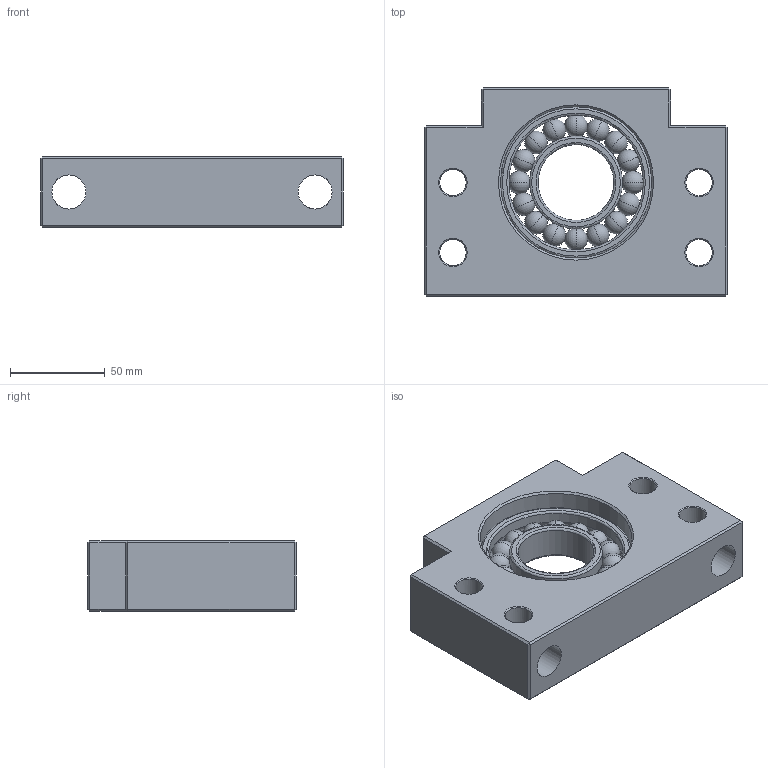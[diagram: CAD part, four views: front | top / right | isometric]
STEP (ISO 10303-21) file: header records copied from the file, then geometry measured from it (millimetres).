
FILE_DESCRIPTION(('STEP AP214'), '1');
FILE_NAME('BF40', '', ('UNSPECIFIED'), ('UNSPECIFIED'), 'ASCON STEP Converter 1.3', 'ASCON Math Kernel', '');
FILE_SCHEMA(('AUTOMOTIVE_DESIGN { 1 0 10303 214 3 1 1}'));
Length unit declared in the file: millimetre
Bounding box: 160 x 110 x 37 mm (x, y, z)
Volume: 395769 mm3; surface area: 85713.4 mm2
Topology: 19 solids, 19 shells, 123 faces, 318 edges, 199 vertices
Faces by surface type: plane 50, sphere 32, cylinder 19, cone 12, torus 10
Full cylindrical faces by diameter (mm): 14 x8, 18 x2, 26 x2, 40 x1, 49 x2, 71 x2, 80 x2
Entity records: 7549 total; most frequent: CARTESIAN_POINT 4012, DIRECTION 486, ORIENTED_EDGE 386, AXIS2_PLACEMENT_3D 200, EDGE_CURVE 193, EDGE_LOOP 192, VERTEX_POINT 151, COLOUR_RGB 142
